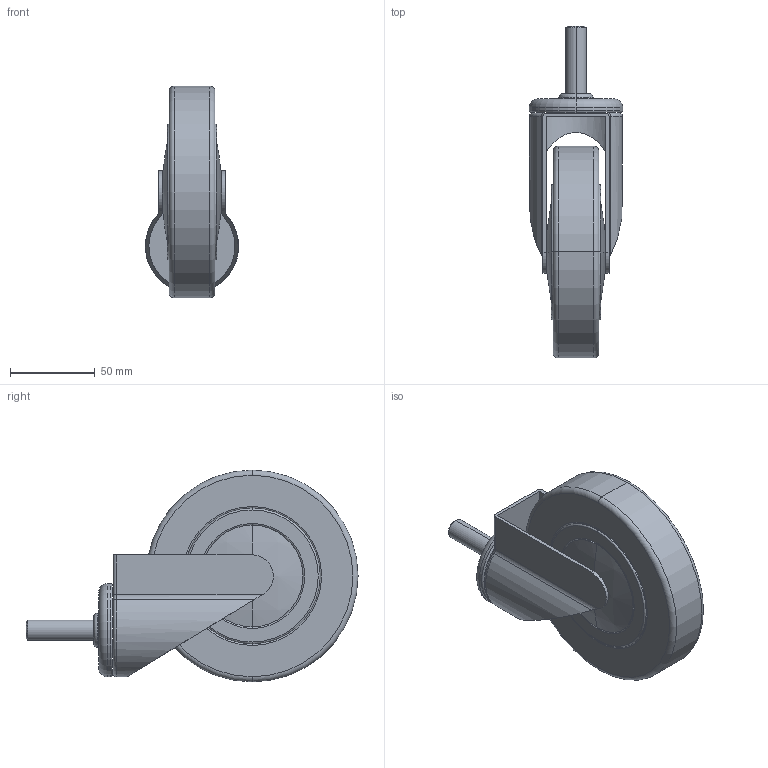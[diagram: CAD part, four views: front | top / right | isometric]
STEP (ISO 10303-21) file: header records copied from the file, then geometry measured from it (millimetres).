
FILE_DESCRIPTION (( 'STEP AP203' ), '1' );
FILE_NAME ('C 12.125 ﾐ鸙韭.STEP', '2013-01-10T05:35:19', ( 'System' ), ( '' ), 'SwSTEP 2.0', 'SolidWorks 2012', '' );
FILE_SCHEMA (( 'CONFIG_CONTROL_DESIGN' ));
Length unit declared in the file: millimetre
Products named in the file (1): C 12.125 ﾐ鸙韭
Bounding box: 55 x 196 x 125 mm (x, y, z)
Volume: 396479.9 mm3; surface area: 91996.6 mm2
Topology: 6 solids, 6 shells, 75 faces, 156 edges, 94 vertices
Faces by surface type: torus 28, cylinder 24, plane 17, sphere 4, cone 2
Entity records: 2097 total; most frequent: DIRECTION 408, CARTESIAN_POINT 350, ORIENTED_EDGE 312, AXIS2_PLACEMENT_3D 182, EDGE_CURVE 156, CIRCLE 106, VERTEX_POINT 94, EDGE_LOOP 80
